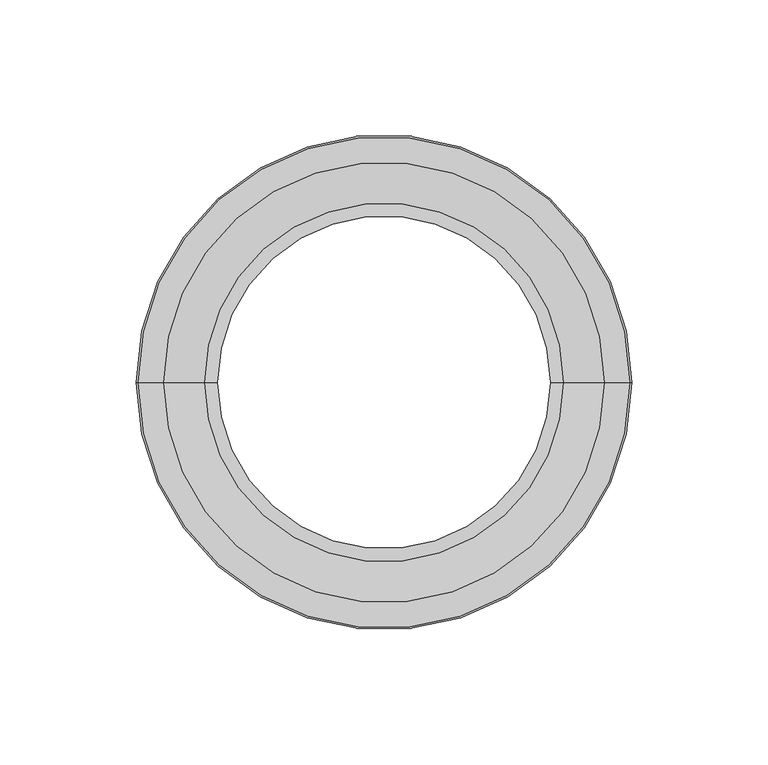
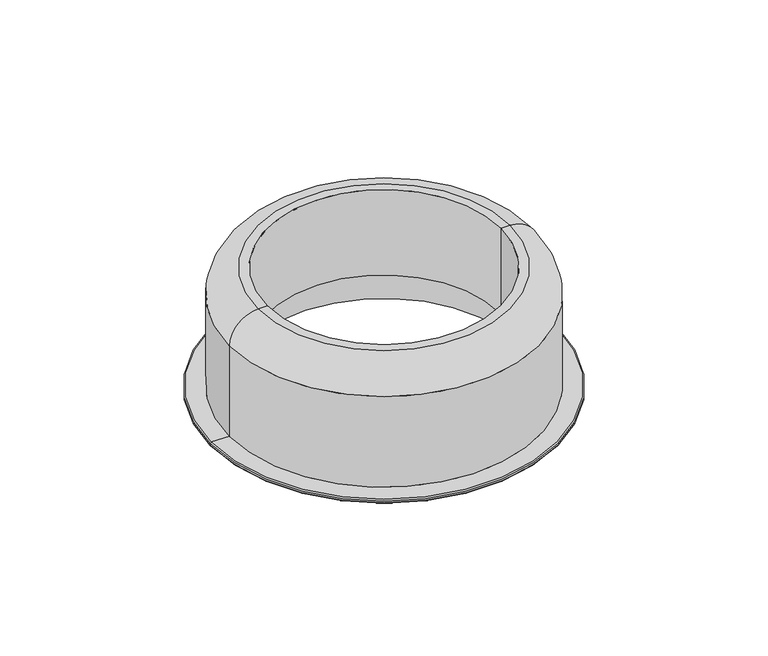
"""IFC4 building model written with IfcOpenShell, lengths in millimetres: proxy geometry, 230208 BIM Data_CSE 56T VA : CSE 56T VA."""

from ifc_helpers import new_model, si_unit, point, frame, origin, place, context, project, spatial, polyline, circle_curve, ellipse_curve, trimmed, source, transform, mapped, element, save
from ifc_brep_helpers import plane_surface, cylinder_surface, revolved_surface, advanced_brep


def communication_devices_2c4ee9a5(model_context):
    return source(origin(), model_context, "Body", "AdvancedBrep", [
        advanced_brep(
        [(90.75, 0.0, -1.4767976), (-90.75, 0.0, -1.4767976), (-90.75, 0.0, -0.6296238), (90.75, 0.0, -0.6296238), (71.0681254, 0.0, -2.018202), (-71.0681254, 0.0, -2.018202), (-90.2085956, 0.0, -2.018202), (90.2085956, 0.0, -2.018202), (61.0681254, 0.0, 65.0), (-61.0681254, 0.0, 65.0), (-61.0681254, 0.0, 17.981798), (61.0681254, 0.0, 17.981798), (65.75, 0.0, 65.0), (-65.75, 0.0, 65.0), (80.75, 0.0, 50.0), (-80.75, 0.0, 50.0), (80.75, 0.0, 0.0), (-80.75, 0.0, 0.0), (90.1203762, 0.0, 0.0), (-90.1203762, 0.0, 0.0), (71.0681254, 0.0, 17.981798), (-71.0681254, 0.0, 17.981798)],
        [
            (0, 1, circle_curve(frame((0.0, 0.0, -1.4767976), z_axis=(0.0, 0.0, 1.0), x_axis=(-1.0, 0.0, 0.0)), 90.75)),
            (1, 2),
            (2, 3, circle_curve(frame((0.0, 0.0, -0.6296238), z_axis=(0.0, 0.0, -1.0), x_axis=(-1.0, 0.0, 0.0)), 90.75)),
            (3, 0),
            (1, 0, circle_curve(frame((0.0, 0.0, -1.4767976), z_axis=(0.0, 0.0, 1.0), x_axis=(-1.0, 0.0, 0.0)), 90.75)),
            (3, 2, circle_curve(frame((0.0, 0.0, -0.6296238), z_axis=(0.0, 0.0, -1.0), x_axis=(-1.0, 0.0, 0.0)), 90.75)),
            (4, 5, circle_curve(frame((0.0, 0.0, -2.018202), z_axis=(0.0, 0.0, 1.0), x_axis=(-1.0, 0.0, 0.0)), 71.0681254)),
            (5, 6),
            (6, 7, circle_curve(frame((0.0, 0.0, -2.018202), z_axis=(0.0, 0.0, -1.0), x_axis=(-1.0, 0.0, 0.0)), 90.2085956)),
            (7, 4),
            (5, 4, circle_curve(frame((0.0, 0.0, -2.018202), z_axis=(0.0, 0.0, 1.0), x_axis=(-1.0, 0.0, 0.0)), 71.0681254)),
            (7, 6, circle_curve(frame((0.0, 0.0, -2.018202), z_axis=(0.0, 0.0, -1.0), x_axis=(-1.0, 0.0, 0.0)), 90.2085956)),
            (8, 9, circle_curve(frame((0.0, 0.0, 65.0), z_axis=(0.0, 0.0, 1.0), x_axis=(-1.0, 0.0, 0.0)), 61.0681254)),
            (9, 10),
            (10, 11, circle_curve(frame((0.0, 0.0, 17.981798), z_axis=(0.0, 0.0, -1.0), x_axis=(-1.0, 0.0, 0.0)), 61.0681254)),
            (11, 8),
            (9, 8, circle_curve(frame((0.0, 0.0, 65.0), z_axis=(0.0, 0.0, 1.0), x_axis=(-1.0, 0.0, 0.0)), 61.0681254)),
            (11, 10, circle_curve(frame((0.0, 0.0, 17.981798), z_axis=(0.0, 0.0, -1.0), x_axis=(-1.0, 0.0, 0.0)), 61.0681254)),
            (12, 13, circle_curve(frame((0.0, 0.0, 65.0), z_axis=(0.0, 0.0, 1.0), x_axis=(-1.0, 0.0, 0.0)), 65.75)),
            (13, 9),
            (8, 12),
            (13, 12, circle_curve(frame((0.0, 0.0, 65.0), z_axis=(0.0, 0.0, 1.0), x_axis=(-1.0, 0.0, 0.0)), 65.75)),
            (14, 15, circle_curve(frame((0.0, 0.0, 50.0), z_axis=(0.0, 0.0, 1.0), x_axis=(-1.0, 0.0, 0.0)), 80.75)),
            (15, 13, circle_curve(frame((-65.75, 0.0, 50.0), z_axis=(0.0, 1.0, 0.0), x_axis=(1.0, 0.0, 0.0)), 15.0)),
            (12, 14, circle_curve(frame((65.75, 0.0, 50.0), z_axis=(0.0, 1.0, 0.0), x_axis=(-1.0, 0.0, 0.0)), 15.0)),
            (15, 14, circle_curve(frame((0.0, 0.0, 50.0), z_axis=(0.0, 0.0, 1.0), x_axis=(-1.0, 0.0, 0.0)), 80.75)),
            (16, 17, circle_curve(frame((0.0, 0.0, 0.0), z_axis=(0.0, 0.0, 1.0), x_axis=(-1.0, 0.0, 0.0)), 80.75)),
            (17, 15),
            (14, 16),
            (17, 16, circle_curve(frame((0.0, 0.0, 0.0), z_axis=(0.0, 0.0, 1.0), x_axis=(-1.0, 0.0, 0.0)), 80.75)),
            (18, 19, circle_curve(frame((0.0, 0.0, 0.0), z_axis=(0.0, 0.0, 1.0), x_axis=(-1.0, 0.0, 0.0)), 90.1203762)),
            (19, 17),
            (16, 18),
            (19, 18, circle_curve(frame((0.0, 0.0, 0.0), z_axis=(0.0, 0.0, 1.0), x_axis=(-1.0, 0.0, 0.0)), 90.1203762)),
            (20, 21, circle_curve(frame((0.0, 0.0, 17.981798), z_axis=(0.0, 0.0, 1.0), x_axis=(-1.0, 0.0, 0.0)), 71.0681254)),
            (21, 5),
            (4, 20),
            (21, 20, circle_curve(frame((0.0, 0.0, 17.981798), z_axis=(0.0, 0.0, 1.0), x_axis=(-1.0, 0.0, 0.0)), 71.0681254)),
            (10, 21),
            (20, 11),
            (2, 19, circle_curve(frame((-90.1203762, 0.0, -0.6296238), z_axis=(0.0, 1.0, 0.0), x_axis=(1.0, 0.0, 0.0)), 0.6296238)),
            (18, 3, circle_curve(frame((90.1203762, 0.0, -0.6296238), z_axis=(0.0, 1.0, 0.0), x_axis=(-1.0, 0.0, 0.0)), 0.6296238)),
            (6, 1, circle_curve(frame((-90.2085956, 0.0, -1.4767976), z_axis=(0.0, 1.0, 0.0), x_axis=(1.0, 0.0, 0.0)), 0.5414044)),
            (0, 7, circle_curve(frame((90.2085956, 0.0, -1.4767976), z_axis=(0.0, 1.0, 0.0), x_axis=(-1.0, 0.0, 0.0)), 0.5414044)),
        ],
        [
            cylinder_surface(frame((0.0, 0.0, 40.0), z_axis=(0.0, 0.0, -1.0), x_axis=(-1.0, 0.0, 0.0)), 90.75),
            plane_surface(frame((0.0, 0.0, -2.018202), z_axis=(0.0, 0.0, -1.0), x_axis=(-1.0, 0.0, 0.0))),
            revolved_surface(polyline([(-61.0681254, 0.0, 17.981798), (-61.0681254, 0.0, 65.0)]), (0.0, 0.0, 40.0), (0.0, 0.0, -1.0)),
            plane_surface(frame((0.0, 0.0, 65.0), z_axis=(0.0, 0.0, 1.0), x_axis=(-1.0, 0.0, 0.0))),
            revolved_surface(trimmed(ellipse_curve(frame((-65.75, 0.0, 50.0), z_axis=(0.0, -1.0, 0.0), x_axis=(1.0, 0.0, 0.0)), 15.0, 15.0), [point((-65.75, 0.0, 65.0))], [point((-80.75, 0.0, 50.0))], True, "CARTESIAN"), (0.0, 0.0, 40.0), (0.0, 0.0, -1.0)),
            cylinder_surface(frame((0.0, 0.0, 40.0), z_axis=(0.0, 0.0, -1.0), x_axis=(-1.0, 0.0, 0.0)), 80.75),
            plane_surface(frame((0.0, 0.0, 0.0), z_axis=(0.0, 0.0, 1.0), x_axis=(-1.0, 0.0, 0.0))),
            revolved_surface(polyline([(-71.0681254, 0.0, -2.0182020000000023), (-71.0681254, 0.0, 17.981798)]), (0.0, 0.0, 40.0), (0.0, 0.0, -1.0)),
            plane_surface(frame((0.0, 0.0, 17.981798), z_axis=(0.0, 0.0, -1.0), x_axis=(-1.0, 0.0, 0.0))),
            revolved_surface(trimmed(ellipse_curve(frame((-90.1203762, 0.0, -0.6296238), z_axis=(0.0, -1.0, 0.0), x_axis=(1.0, 0.0, 0.0)), 0.6296238, 0.6296238), [point((-90.1203762, 0.0, 0.0))], [point((-90.75, 0.0, -0.6296238))], True, "CARTESIAN"), (0.0, 0.0, 40.0), (0.0, 0.0, -1.0)),
            revolved_surface(trimmed(ellipse_curve(frame((-90.2085956, 0.0, -1.4767976), z_axis=(0.0, -1.0, 0.0), x_axis=(1.0, 0.0, 0.0)), 0.5414044, 0.5414044), [point((-90.75, 0.0, -1.4767976))], [point((-90.2085956, 0.0, -2.018202))], True, "CARTESIAN"), (0.0, 0.0, 40.0), (0.0, 0.0, -1.0)),
        ],
        [
            (0, [[1, 2, 3, 4]]),
            (0, [[5, -4, 6, -2]]),
            (1, [[7, 8, 9, 10]]),
            (1, [[11, -10, 12, -8]]),
            (2, [[13, 14, 15, 16]]),
            (2, [[17, -16, 18, -14]]),
            (3, [[19, 20, -13, 21]]),
            (3, [[22, -21, -17, -20]]),
            (4, [[23, 24, -19, 25]]),
            (4, [[26, -25, -22, -24]]),
            (5, [[27, 28, -23, 29]]),
            (5, [[30, -29, -26, -28]]),
            (6, [[31, 32, -27, 33]]),
            (6, [[34, -33, -30, -32]]),
            (7, [[35, 36, -7, 37]]),
            (7, [[38, -37, -11, -36]]),
            (8, [[-15, 39, -35, 40]]),
            (8, [[-18, -40, -38, -39]]),
            (9, [[-3, 41, -31, 42]]),
            (9, [[-6, -42, -34, -41]]),
            (10, [[-9, 43, -1, 44]]),
            (10, [[-12, -44, -5, -43]]),
        ],
    ),
    ])


if __name__ == "__main__":
    model = new_model("IFC4")
    model_context = context("Model", 3, world=origin())
    ifc_project = project(units=[si_unit("LENGTHUNIT", "METRE", prefix="MILLI")], contexts=[model_context])
    site = spatial("IfcSite", under=ifc_project)
    building = spatial("IfcBuilding", under=site)
    placement = place(None, origin())
    communication_devices_shape = communication_devices_2c4ee9a5(model_context)
    element("IfcBuildingElementProxy", 1, Name="230208 BIM Data_CSE 56T VA : CSE 56T VA", ObjectType="230208 BIM Data_CSE 56T VA : CSE 56T VA", at=placement, inside=building, context=model_context, shape_type="MappedRepresentation", body=[
        mapped(communication_devices_shape, transform((0.0, 0.0, 0.0), x_axis=(1.0, 0.0, 0.0), y_axis=(0.0, 1.0, 0.0), z_axis=(0.0, 0.0, 1.0))),
    ])
    save(model, "model.ifc")
